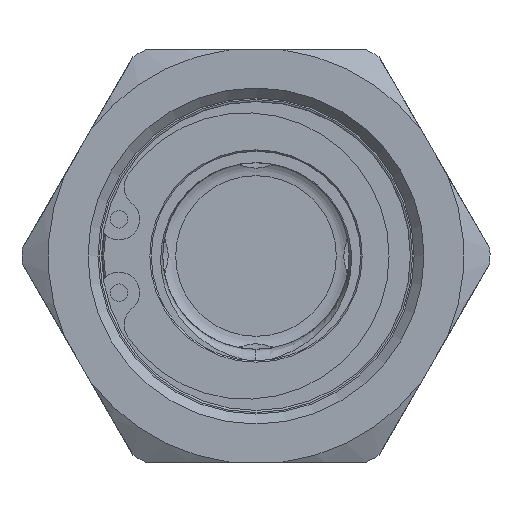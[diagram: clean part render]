
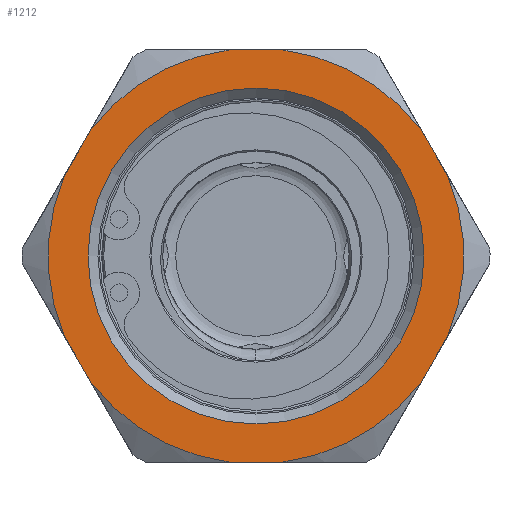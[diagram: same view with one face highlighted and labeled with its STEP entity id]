
A CAD part, left-side view. The second image highlights one B-rep face of the part: STEP entity #1212.
In plain terms, the highlighted planar face has unit normal (-1, 0, 0).
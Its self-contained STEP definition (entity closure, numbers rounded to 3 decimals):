
#144 = CARTESIAN_POINT ( 'NONE',  ( 0., 27.472, -11.417 ) ) ;
#194 = CARTESIAN_POINT ( 'NONE',  ( 0., 0., 0. ) ) ;
#252 = DIRECTION ( 'NONE',  ( 0., 0., 1. ) ) ;
#476 = EDGE_CURVE ( 'NONE', #3726, #5691, #5093, .T. ) ;
#718 = DIRECTION ( 'NONE',  ( 0., 1., 0. ) ) ;
#934 = CIRCLE ( 'NONE', #1280, 29.75 ) ;
#987 = VECTOR ( 'NONE', #6941, 1000. ) ;
#1034 = DIRECTION ( 'NONE',  ( -1., 0., 0. ) ) ;
#1039 = DIRECTION ( 'NONE',  ( 0., 0., 1. ) ) ;
#1060 = LINE ( 'NONE', #5578, #1241 ) ;
#1101 = AXIS2_PLACEMENT_3D ( 'NONE', #1528, #6486, #4833 ) ;
#1117 = EDGE_LOOP ( 'NONE', ( #3112 ) ) ;
#1129 = VERTEX_POINT ( 'NONE', #4233 ) ;
#1166 = CARTESIAN_POINT ( 'NONE',  ( 0., -23.623, -18.083 ) ) ;
#1183 = CARTESIAN_POINT ( 'NONE',  ( 0., 3.849, 29.5 ) ) ;
#1212 = ADVANCED_FACE ( 'NONE', ( #5663, #7161 ), #3172, .F. ) ;
#1241 = VECTOR ( 'NONE', #2303, 1000. ) ;
#1251 = LINE ( 'NONE', #3062, #987 ) ;
#1280 = AXIS2_PLACEMENT_3D ( 'NONE', #5976, #2200, #2661 ) ;
#1469 = VERTEX_POINT ( 'NONE', #4517 ) ;
#1479 = EDGE_CURVE ( 'NONE', #4161, #3794, #5480, .T. ) ;
#1519 = CARTESIAN_POINT ( 'NONE',  ( 0., 0., 0. ) ) ;
#1528 = CARTESIAN_POINT ( 'NONE',  ( 0., 0., 0. ) ) ;
#1576 = DIRECTION ( 'NONE',  ( -1., 0., 0. ) ) ;
#1587 = CARTESIAN_POINT ( 'NONE',  ( 0., -34.064, 0. ) ) ;
#1666 = CARTESIAN_POINT ( 'NONE',  ( 0., 17.032, -29.5 ) ) ;
#1707 = AXIS2_PLACEMENT_3D ( 'NONE', #5391, #7113, #5414 ) ;
#1734 = ORIENTED_EDGE ( 'NONE', *, *, #5481, .F. ) ;
#1742 = DIRECTION ( 'NONE',  ( 0., 0.5, 0.866 ) ) ;
#1873 = CARTESIAN_POINT ( 'NONE',  ( 0., -17.032, -29.5 ) ) ;
#1977 = ORIENTED_EDGE ( 'NONE', *, *, #476, .T. ) ;
#2096 = DIRECTION ( 'NONE',  ( 0., -0.5, 0.866 ) ) ;
#2130 = ORIENTED_EDGE ( 'NONE', *, *, #1479, .F. ) ;
#2183 = CARTESIAN_POINT ( 'NONE',  ( 0., 0., 0. ) ) ;
#2188 = DIRECTION ( 'NONE',  ( 0., 0., 1. ) ) ;
#2200 = DIRECTION ( 'NONE',  ( -1., 0., 0. ) ) ;
#2303 = DIRECTION ( 'NONE',  ( 0., -1., 0. ) ) ;
#2324 = ORIENTED_EDGE ( 'NONE', *, *, #5955, .F. ) ;
#2524 = LINE ( 'NONE', #1587, #4684 ) ;
#2537 = EDGE_CURVE ( 'NONE', #4218, #4167, #934, .T. ) ;
#2574 = ORIENTED_EDGE ( 'NONE', *, *, #3461, .F. ) ;
#2589 = VERTEX_POINT ( 'NONE', #3835 ) ;
#2620 = DIRECTION ( 'NONE',  ( 0., 0., 1. ) ) ;
#2640 = CARTESIAN_POINT ( 'NONE',  ( 0., 34.064, 0. ) ) ;
#2661 = DIRECTION ( 'NONE',  ( 0., 0., 1. ) ) ;
#2699 = DIRECTION ( 'NONE',  ( 0., 0., 1. ) ) ;
#2960 = DIRECTION ( 'NONE',  ( -1., 0., 0. ) ) ;
#2977 = AXIS2_PLACEMENT_3D ( 'NONE', #3832, #4435, #2188 ) ;
#3009 = ORIENTED_EDGE ( 'NONE', *, *, #6242, .F. ) ;
#3034 = AXIS2_PLACEMENT_3D ( 'NONE', #6532, #1576, #2699 ) ;
#3062 = CARTESIAN_POINT ( 'NONE',  ( 0., -17.032, 29.5 ) ) ;
#3112 = ORIENTED_EDGE ( 'NONE', *, *, #4502, .F. ) ;
#3121 = CIRCLE ( 'NONE', #5008, 29.75 ) ;
#3172 = PLANE ( 'NONE',  #1707 ) ;
#3175 = VERTEX_POINT ( 'NONE', #4306 ) ;
#3188 = EDGE_CURVE ( 'NONE', #1129, #4230, #6003, .T. ) ;
#3269 = CARTESIAN_POINT ( 'NONE',  ( 0., -27.472, 11.417 ) ) ;
#3293 = EDGE_LOOP ( 'NONE', ( #7019, #2130, #4889, #3367, #5379, #3009, #1977, #1734, #6040, #2324, #6588, #2574 ) ) ;
#3295 = VECTOR ( 'NONE', #718, 1000. ) ;
#3367 = ORIENTED_EDGE ( 'NONE', *, *, #5998, .F. ) ;
#3454 = VERTEX_POINT ( 'NONE', #3766 ) ;
#3461 = EDGE_CURVE ( 'NONE', #3175, #4167, #5635, .T. ) ;
#3507 = VECTOR ( 'NONE', #2096, 1000. ) ;
#3561 = CIRCLE ( 'NONE', #1101, 24.05 ) ;
#3563 = CIRCLE ( 'NONE', #3865, 29.75 ) ;
#3726 = VERTEX_POINT ( 'NONE', #4948 ) ;
#3766 = CARTESIAN_POINT ( 'NONE',  ( 0., 3.849, -29.5 ) ) ;
#3794 = VERTEX_POINT ( 'NONE', #144 ) ;
#3832 = CARTESIAN_POINT ( 'NONE',  ( 0., 0., 0. ) ) ;
#3835 = CARTESIAN_POINT ( 'NONE',  ( 0., -3.849, -29.5 ) ) ;
#3865 = AXIS2_PLACEMENT_3D ( 'NONE', #194, #2960, #252 ) ;
#3967 = VERTEX_POINT ( 'NONE', #1166 ) ;
#4161 = VERTEX_POINT ( 'NONE', #6559 ) ;
#4167 = VERTEX_POINT ( 'NONE', #4899 ) ;
#4218 = VERTEX_POINT ( 'NONE', #1183 ) ;
#4230 = VERTEX_POINT ( 'NONE', #4413 ) ;
#4233 = CARTESIAN_POINT ( 'NONE',  ( 0., -23.623, 18.083 ) ) ;
#4306 = CARTESIAN_POINT ( 'NONE',  ( 0., 27.472, 11.417 ) ) ;
#4331 = AXIS2_PLACEMENT_3D ( 'NONE', #1519, #1034, #2620 ) ;
#4347 = DIRECTION ( 'NONE',  ( 0., 0.5, -0.866 ) ) ;
#4413 = CARTESIAN_POINT ( 'NONE',  ( 0., -3.849, 29.5 ) ) ;
#4435 = DIRECTION ( 'NONE',  ( -1., 0., 0. ) ) ;
#4502 = EDGE_CURVE ( 'NONE', #1469, #1469, #3561, .T. ) ;
#4517 = CARTESIAN_POINT ( 'NONE',  ( 0., 0., 24.05 ) ) ;
#4684 = VECTOR ( 'NONE', #4347, 1000. ) ;
#4768 = LINE ( 'NONE', #1873, #3295 ) ;
#4833 = DIRECTION ( 'NONE',  ( 0., 0., 1. ) ) ;
#4889 = ORIENTED_EDGE ( 'NONE', *, *, #6606, .T. ) ;
#4899 = CARTESIAN_POINT ( 'NONE',  ( 0., 23.623, 18.083 ) ) ;
#4948 = CARTESIAN_POINT ( 'NONE',  ( 0., -27.472, -11.417 ) ) ;
#5008 = AXIS2_PLACEMENT_3D ( 'NONE', #2183, #6567, #1039 ) ;
#5093 = CIRCLE ( 'NONE', #4331, 29.75 ) ;
#5379 = ORIENTED_EDGE ( 'NONE', *, *, #5630, .T. ) ;
#5391 = CARTESIAN_POINT ( 'NONE',  ( 0., 24.05, 0. ) ) ;
#5414 = DIRECTION ( 'NONE',  ( 0., 0., -1. ) ) ;
#5480 = LINE ( 'NONE', #1666, #6275 ) ;
#5481 = EDGE_CURVE ( 'NONE', #1129, #5691, #1251, .T. ) ;
#5539 = CIRCLE ( 'NONE', #2977, 29.75 ) ;
#5578 = CARTESIAN_POINT ( 'NONE',  ( 0., 17.032, 29.5 ) ) ;
#5630 = EDGE_CURVE ( 'NONE', #2589, #3967, #5539, .T. ) ;
#5635 = LINE ( 'NONE', #2640, #3507 ) ;
#5663 = FACE_BOUND ( 'NONE', #1117, .T. ) ;
#5691 = VERTEX_POINT ( 'NONE', #3269 ) ;
#5955 = EDGE_CURVE ( 'NONE', #4218, #4230, #1060, .T. ) ;
#5976 = CARTESIAN_POINT ( 'NONE',  ( 0., 0., 0. ) ) ;
#5998 = EDGE_CURVE ( 'NONE', #2589, #3454, #4768, .T. ) ;
#6003 = CIRCLE ( 'NONE', #3034, 29.75 ) ;
#6040 = ORIENTED_EDGE ( 'NONE', *, *, #3188, .T. ) ;
#6181 = EDGE_CURVE ( 'NONE', #3175, #3794, #3121, .T. ) ;
#6242 = EDGE_CURVE ( 'NONE', #3726, #3967, #2524, .T. ) ;
#6275 = VECTOR ( 'NONE', #1742, 1000. ) ;
#6486 = DIRECTION ( 'NONE',  ( -1., 0., 0. ) ) ;
#6532 = CARTESIAN_POINT ( 'NONE',  ( 0., 0., 0. ) ) ;
#6559 = CARTESIAN_POINT ( 'NONE',  ( 0., 23.623, -18.083 ) ) ;
#6567 = DIRECTION ( 'NONE',  ( -1., 0., 0. ) ) ;
#6588 = ORIENTED_EDGE ( 'NONE', *, *, #2537, .T. ) ;
#6606 = EDGE_CURVE ( 'NONE', #4161, #3454, #3563, .T. ) ;
#6941 = DIRECTION ( 'NONE',  ( 0., -0.5, -0.866 ) ) ;
#7019 = ORIENTED_EDGE ( 'NONE', *, *, #6181, .T. ) ;
#7113 = DIRECTION ( 'NONE',  ( 1., 0., 0. ) ) ;
#7161 = FACE_OUTER_BOUND ( 'NONE', #3293, .T. ) ;
